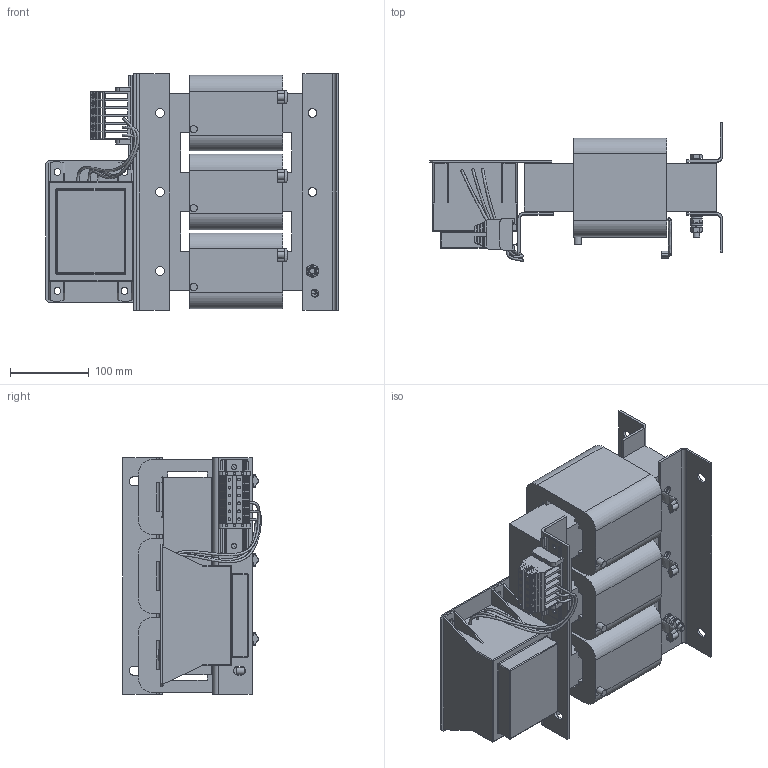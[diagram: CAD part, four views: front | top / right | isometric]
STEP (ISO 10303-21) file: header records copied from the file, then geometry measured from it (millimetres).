
FILE_DESCRIPTION((''),'2;1');
FILE_NAME('C:\Users\Samuel.Meier\Desktop\steps\FN5040-62-86.stp','2014-01-28T09:37:46',('Samuel.Meier'),(''),'Autodesk Inventor 2013','Autodesk Inventor 2013','');
FILE_SCHEMA(('AUTOMOTIVE_DESIGN { 1 0 10303 214 1 1 1 1 }'));
Length unit declared in the file: millimetre
Products named in the file (1): Bauteil3
Bounding box: 371 x 175.72 x 300 mm (x, y, z)
Volume: 5797905.6 mm3; surface area: 913216.1 mm2
Topology: 4 solids, 7 shells, 1219 faces, 3361 edges, 2201 vertices
Faces by surface type: plane 856, cylinder 211, bspline 119, cone 12, revolution 9, sphere 8, torus 4
Full cylindrical faces by diameter (mm): 3 x9, 3.5 x60, 6 x2, 6.5 x2, 7.323 x1, 8 x3, 8.4 x2, 8.5 x4, 9 x1, 9.107 x3, 10 x1, 11 x17, 11.4 x1, 16 x2
Entity records: 66055 total; most frequent: CARTESIAN_POINT 34338, ORIENTED_EDGE 6412, DIRECTION 5642, EDGE_CURVE 3209, VECTOR 2405, LINE 2405, VERTEX_POINT 2177, EDGE_LOOP 1696
